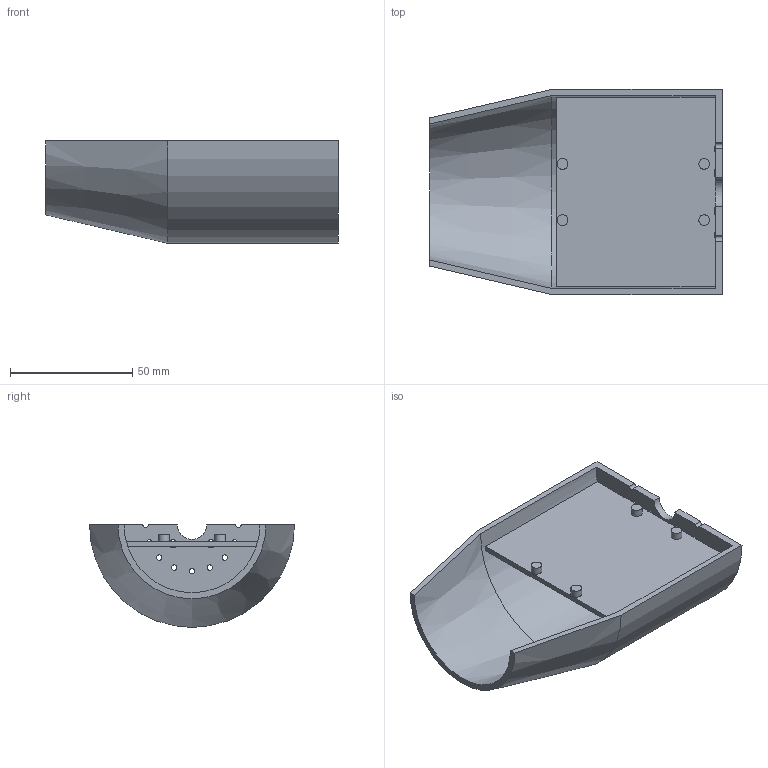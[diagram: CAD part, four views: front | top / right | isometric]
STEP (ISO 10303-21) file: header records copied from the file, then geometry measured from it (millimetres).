
FILE_DESCRIPTION(('Open CASCADE Model'),'2;1');
FILE_NAME('Open CASCADE Shape Model','2026-10-25T05:18:01',('Author'),( 'Open CASCADE'),'Open CASCADE STEP processor 7.9','Open CASCADE 7.9' ,'Unknown');
FILE_SCHEMA(('AUTOMOTIVE_DESIGN { 1 0 10303 214 1 1 1 1 }'));
Length unit declared in the file: millimetre
Products named in the file (1): Open CASCADE STEP translator 7.9 3
Bounding box: 120 x 84 x 42 mm (x, y, z)
Volume: 53371.4 mm3; surface area: 45127.6 mm2
Topology: 1 solids, 1 shells, 40 faces, 126 edges, 84 vertices
Faces by surface type: plane 19, cylinder 19, cone 2
Full cylindrical faces by diameter (mm): 2.2 x7, 3 x1, 3.4 x2, 4.4 x4
Entity records: 3318 total; most frequent: CARTESIAN_POINT 881, DIRECTION 424, ORIENTED_EDGE 252, PCURVE 252, DEFINITIONAL_REPRESENTATION 252, LINE 182, VECTOR 182, EDGE_CURVE 126
